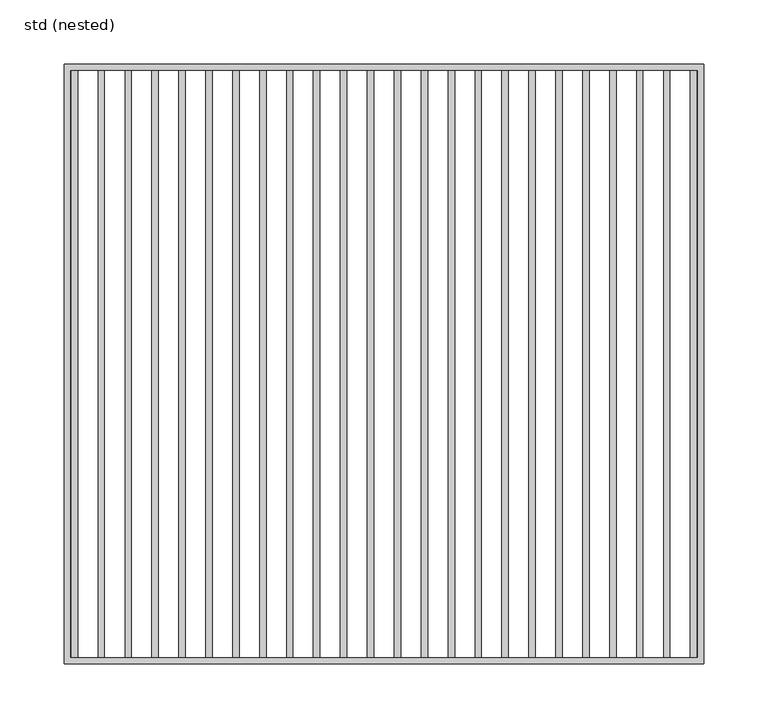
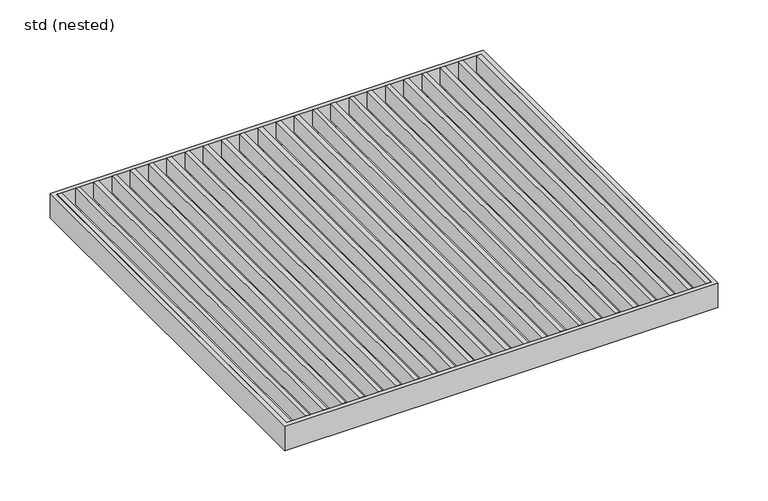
"""IFC4 building model written with IfcOpenShell, lengths in millimetres: sanitary terminal geometry, ZZZ_do not use_PF_ST_UN_grating for box channel_ACO : std (nested)."""

import ifcopenshell
import ifcopenshell.guid

model = None  # the IFC model being written
_history = None  # IfcOwnerHistory: only IFC2X3 demands one
_inside = {}  # id of a spatial element -> (the spatial element, [elements in it])
_under = {}  # id of a project, library or spatial element -> (it, [spatial elements below it])
_declared = {}  # id of a project -> (the project, [libraries it declares])
_typed = {}  # id of a type object -> (the type object, [elements of that type])
_made_of = {}  # id of a material, layer set ... -> (it, [elements and type objects made of it])


def new_model(schema):
    """Start an empty IFC model of exactly this schema.

    Asked for "IFC4X3", IfcOpenShell would pick the latest addendum, in which some entities
    have other attributes; the version numbers below select the first issue.
    IFC2X3 requires an IfcOwnerHistory on every rooted entity: one is made here for all.
    """
    global model, _history
    if schema == "IFC4X3":
        model = ifcopenshell.file(schema_version=(4, 3, 0, 0))
    else:
        model = ifcopenshell.file(schema=schema)
    _inside.clear()
    _under.clear()
    _declared.clear()
    _typed.clear()
    _made_of.clear()
    _history = None
    if model.schema == "IFC2X3":
        org = make("IfcOrganization", Name="unknown")
        user = make(
            "IfcPersonAndOrganization",
            ThePerson=make("IfcPerson", FamilyName="unknown"),
            TheOrganization=org,
        )
        app = make(
            "IfcApplication",
            ApplicationDeveloper=org,
            Version="unknown",
            ApplicationFullName="unknown",
            ApplicationIdentifier="unknown",
        )
        _history = make(
            "IfcOwnerHistory",
            OwningUser=user,
            OwningApplication=app,
            ChangeAction="ADDED",
            CreationDate=0,
        )
    return model


def make(cls, **values):
    """One entity of the class cls with the attributes given. An attribute that is None is left unset."""
    return model.create_entity(
        cls, **{name: value for name, value in values.items() if value is not None}
    )


def rooted(cls, **values):
    """An entity with a GlobalId (a new one), such as an element, a storey or a relation."""
    return make(cls, GlobalId=ifcopenshell.guid.new(), OwnerHistory=_history, **values)


def si_unit(unit_type, name, prefix=None):
    """IfcSIUnit, for example si_unit("LENGTHUNIT", "METRE", prefix="MILLI")."""
    return make("IfcSIUnit", UnitType=unit_type, Prefix=prefix, Name=name)


def assignment(units):
    """IfcUnitAssignment: the units of a project."""
    return None if units is None else make("IfcUnitAssignment", Units=units)


def point(xyz):
    """IfcCartesianPoint."""
    return None if xyz is None else make("IfcCartesianPoint", Coordinates=xyz)


def direction(xyz):
    """IfcDirection."""
    return None if xyz is None else make("IfcDirection", DirectionRatios=xyz)


def frame(location, z_axis=None, x_axis=None):
    """IfcAxis2Placement3D, a coordinate frame: its origin and axes. An axis left out is left unset."""
    return make(
        "IfcAxis2Placement3D",
        Location=point(location),
        Axis=direction(z_axis),
        RefDirection=direction(x_axis),
    )


def origin():
    """The frame at (0, 0, 0) with its axes left unset."""
    return frame((0.0, 0.0, 0.0))


def place(relative_to, where):
    """IfcLocalPlacement: puts the frame where relative to a parent placement (None: the world)."""
    return make(
        "IfcLocalPlacement", PlacementRelTo=relative_to, RelativePlacement=where
    )


def context(
    kind, dimensions, precision=None, world=None, true_north=None, identifier=None
):
    """IfcGeometricRepresentationContext, for example the 3D "Model" context."""
    return make(
        "IfcGeometricRepresentationContext",
        ContextIdentifier=identifier,
        ContextType=kind,
        CoordinateSpaceDimension=dimensions,
        Precision=precision,
        WorldCoordinateSystem=world,
        TrueNorth=true_north,
    )


def project(units=None, contexts=None):
    """IfcProject with its units and contexts."""
    return rooted(
        "IfcProject",
        Name="project",
        RepresentationContexts=contexts,
        UnitsInContext=assignment(units),
    )


def spatial(cls, under=None, at=None, **own):
    """A site, building, storey or space (cls), placed at a placement, below another one or the project."""
    s = rooted(cls, ObjectPlacement=at, **own)
    if under is not None:
        _under.setdefault(under.id(), (under, []))[1].append(s)
    return s


def polyline(points):
    """IfcPolyline through the points."""
    return make("IfcPolyline", Points=[point(p) for p in points])


def outline(outer, holes=None, kind="AREA"):
    """IfcArbitraryClosedProfileDef: a profile drawn as a closed curve; with holes, ...WithVoids."""
    if holes is None:
        return make("IfcArbitraryClosedProfileDef", ProfileType=kind, OuterCurve=outer)
    return make(
        "IfcArbitraryProfileDefWithVoids",
        ProfileType=kind,
        OuterCurve=outer,
        InnerCurves=holes,
    )


def extrude(swept, where, along, depth):
    """IfcExtrudedAreaSolid: the profile swept, set in the frame where, extruded along a direction by depth."""
    return make(
        "IfcExtrudedAreaSolid",
        SweptArea=swept,
        Position=where,
        ExtrudedDirection=direction(along),
        Depth=depth,
    )


def shape(context_of_items, identifier, shape_type, items):
    """IfcShapeRepresentation: the items that make up one representation, for example the "Body"."""
    return make(
        "IfcShapeRepresentation",
        ContextOfItems=context_of_items,
        RepresentationIdentifier=identifier,
        RepresentationType=shape_type,
        Items=items,
    )


def source(mapping_origin, context_of_items, identifier, shape_type, items):
    """IfcRepresentationMap: a shape defined once, which mapped items show again and again."""
    return make(
        "IfcRepresentationMap",
        MappingOrigin=mapping_origin,
        MappedRepresentation=shape(context_of_items, identifier, shape_type, items),
    )


def transform(
    local_origin,
    x_axis=None,
    y_axis=None,
    z_axis=None,
    scale=None,
    scale2=None,
    scale3=None,
    uniform=True,
):
    """IfcCartesianTransformationOperator3D, or its non-uniform kind. x_axis, y_axis, z_axis: its Axis1, 2, 3."""
    if uniform:
        return make(
            "IfcCartesianTransformationOperator3D",
            Axis1=direction(x_axis),
            Axis2=direction(y_axis),
            LocalOrigin=point(local_origin),
            Scale=scale,
            Axis3=direction(z_axis),
        )
    return make(
        "IfcCartesianTransformationOperator3DnonUniform",
        Axis1=direction(x_axis),
        Axis2=direction(y_axis),
        LocalOrigin=point(local_origin),
        Scale=scale,
        Axis3=direction(z_axis),
        Scale2=scale2,
        Scale3=scale3,
    )


def mapped(mapping_source, mapping_target):
    """IfcMappedItem: shows the shape of a source again, moved by a transform."""
    return make(
        "IfcMappedItem", MappingSource=mapping_source, MappingTarget=mapping_target
    )


def made_of(thing, what):
    """Note that an element or type object is made of a material, layer set ...; save() writes the relation."""
    if what is not None:
        _made_of.setdefault(what.id(), (what, []))[1].append(thing)
    return thing


def element(
    cls,
    number,
    at=None,
    inside=None,
    cuts=None,
    type_object=None,
    material=None,
    context=None,
    identifier="Body",
    shape_type=None,
    held_by="IfcProductDefinitionShape",
    body=None,
    shapes=None,
    **own,
):
    """One element of the class cls, such as IfcWall. Its Tag is "e" and its number.

    at: its placement. inside: the storey or other place that contains it. cuts: it is an
    opening in that element (IfcRelVoidsElement). A single representation is given by context,
    identifier, shape_type and body (its items); several are given by shapes. held_by: the class
    of the entity that holds the representations. save() writes the other relations.
    """
    e = rooted(cls, Tag="e%d" % number, ObjectPlacement=at, **own)
    if body is not None:
        shapes = [shape(context, identifier, shape_type, body)]
    if shapes is not None:
        e.Representation = make(held_by, Representations=shapes)
    if inside is not None:
        _inside.setdefault(inside.id(), (inside, []))[1].append(e)
    if cuts is not None:
        rooted(
            "IfcRelVoidsElement", RelatingBuildingElement=cuts, RelatedOpeningElement=e
        )
    if type_object is not None:
        _typed.setdefault(type_object.id(), (type_object, []))[1].append(e)
    return made_of(e, material)


def aggregate(whole, parts):
    """IfcRelAggregates: a whole, such as a stair, and the parts it consists of."""
    return rooted("IfcRelAggregates", RelatingObject=whole, RelatedObjects=parts)


def save(model, path):
    """Write the relations noted so far, then the file.

    IfcRelAggregates (storeys below a building ...), IfcRelContainedInSpatialStructure (elements
    in a storey), IfcRelDefinesByType, IfcRelAssociatesMaterial and IfcRelDeclares: one each for
    every whole, place, type object, material and project.
    """
    for whole, parts in _under.values():
        aggregate(whole, parts)
    for where, things in _inside.values():
        rooted(
            "IfcRelContainedInSpatialStructure",
            RelatedElements=things,
            RelatingStructure=where,
        )
    for kind, things in _typed.values():
        rooted("IfcRelDefinesByType", RelatedObjects=things, RelatingType=kind)
    for what, things in _made_of.values():
        rooted("IfcRelAssociatesMaterial", RelatedObjects=things, RelatingMaterial=what)
    for by, libraries in _declared.values():
        rooted("IfcRelDeclares", RelatingContext=by, RelatedDefinitions=libraries)
    model.write(path)


def std_nested_4be5dc4f(model_context):
    return source(origin(), model_context, "Body", "SweptSolid", [
        extrude(outline(polyline([(-244.0, 229.0), (-239.0, 229.0), (-239.0, -229.0), (-244.0, -229.0), (-244.0, 229.0)])), frame((0.0, 0.0, -20.0), z_axis=(0.0, 0.0, 1.0), x_axis=(1.0, 0.0, 0.0)), (0.0, 0.0, 1.0), 20.0),
        extrude(outline(polyline([(-223.0, 229.0), (-218.0, 229.0), (-218.0, -229.0), (-223.0, -229.0), (-223.0, 229.0)])), frame((0.0, 0.0, -20.0), z_axis=(0.0, 0.0, 1.0), x_axis=(1.0, 0.0, 0.0)), (0.0, 0.0, 1.0), 20.0),
        extrude(outline(polyline([(-202.0, 229.0), (-197.0, 229.0), (-197.0, -229.0), (-202.0, -229.0), (-202.0, 229.0)])), frame((0.0, 0.0, -20.0), z_axis=(0.0, 0.0, 1.0), x_axis=(1.0, 0.0, 0.0)), (0.0, 0.0, 1.0), 20.0),
        extrude(outline(polyline([(-181.0, 229.0), (-176.0, 229.0), (-176.0, -229.0), (-181.0, -229.0), (-181.0, 229.0)])), frame((0.0, 0.0, -20.0), z_axis=(0.0, 0.0, 1.0), x_axis=(1.0, 0.0, 0.0)), (0.0, 0.0, 1.0), 20.0),
        extrude(outline(polyline([(-160.0, 229.0), (-155.0, 229.0), (-155.0, -229.0), (-160.0, -229.0), (-160.0, 229.0)])), frame((0.0, 0.0, -20.0), z_axis=(0.0, 0.0, 1.0), x_axis=(1.0, 0.0, 0.0)), (0.0, 0.0, 1.0), 20.0),
        extrude(outline(polyline([(-139.0, 229.0), (-134.0, 229.0), (-134.0, -229.0), (-139.0, -229.0), (-139.0, 229.0)])), frame((0.0, 0.0, -20.0), z_axis=(0.0, 0.0, 1.0), x_axis=(1.0, 0.0, 0.0)), (0.0, 0.0, 1.0), 20.0),
        extrude(outline(polyline([(-118.0, 229.0), (-113.0, 229.0), (-113.0, -229.0), (-118.0, -229.0), (-118.0, 229.0)])), frame((0.0, 0.0, -20.0), z_axis=(0.0, 0.0, 1.0), x_axis=(1.0, 0.0, 0.0)), (0.0, 0.0, 1.0), 20.0),
        extrude(outline(polyline([(-97.0, 229.0), (-92.0, 229.0), (-92.0, -229.0), (-97.0, -229.0), (-97.0, 229.0)])), frame((0.0, 0.0, -20.0), z_axis=(0.0, 0.0, 1.0), x_axis=(1.0, 0.0, 0.0)), (0.0, 0.0, 1.0), 20.0),
        extrude(outline(polyline([(-76.0, 229.0), (-71.0, 229.0), (-71.0, -229.0), (-76.0, -229.0), (-76.0, 229.0)])), frame((0.0, 0.0, -20.0), z_axis=(0.0, 0.0, 1.0), x_axis=(1.0, 0.0, 0.0)), (0.0, 0.0, 1.0), 20.0),
        extrude(outline(polyline([(-55.0, 229.0), (-50.0, 229.0), (-50.0, -229.0), (-55.0, -229.0), (-55.0, 229.0)])), frame((0.0, 0.0, -20.0), z_axis=(0.0, 0.0, 1.0), x_axis=(1.0, 0.0, 0.0)), (0.0, 0.0, 1.0), 20.0),
        extrude(outline(polyline([(-34.0, 229.0), (-29.0, 229.0), (-29.0, -229.0), (-34.0, -229.0), (-34.0, 229.0)])), frame((0.0, 0.0, -20.0), z_axis=(0.0, 0.0, 1.0), x_axis=(1.0, 0.0, 0.0)), (0.0, 0.0, 1.0), 20.0),
        extrude(outline(polyline([(244.0, 229.0), (244.0, -229.0), (239.0, -229.0), (239.0, 229.0), (244.0, 229.0)])), frame((0.0, 0.0, -20.0), z_axis=(0.0, 0.0, 1.0), x_axis=(1.0, 0.0, 0.0)), (0.0, 0.0, 1.0), 20.0),
        extrude(outline(polyline([(223.0, 229.0), (223.0, -229.0), (218.0, -229.0), (218.0, 229.0), (223.0, 229.0)])), frame((0.0, 0.0, -20.0), z_axis=(0.0, 0.0, 1.0), x_axis=(1.0, 0.0, 0.0)), (0.0, 0.0, 1.0), 20.0),
        extrude(outline(polyline([(202.0, 229.0), (202.0, -229.0), (197.0, -229.0), (197.0, 229.0), (202.0, 229.0)])), frame((0.0, 0.0, -20.0), z_axis=(0.0, 0.0, 1.0), x_axis=(1.0, 0.0, 0.0)), (0.0, 0.0, 1.0), 20.0),
        extrude(outline(polyline([(181.0, 229.0), (181.0, -229.0), (176.0, -229.0), (176.0, 229.0), (181.0, 229.0)])), frame((0.0, 0.0, -20.0), z_axis=(0.0, 0.0, 1.0), x_axis=(1.0, 0.0, 0.0)), (0.0, 0.0, 1.0), 20.0),
        extrude(outline(polyline([(160.0, 229.0), (160.0, -229.0), (155.0, -229.0), (155.0, 229.0), (160.0, 229.0)])), frame((0.0, 0.0, -20.0), z_axis=(0.0, 0.0, 1.0), x_axis=(1.0, 0.0, 0.0)), (0.0, 0.0, 1.0), 20.0),
        extrude(outline(polyline([(139.0, 229.0), (139.0, -229.0), (134.0, -229.0), (134.0, 229.0), (139.0, 229.0)])), frame((0.0, 0.0, -20.0), z_axis=(0.0, 0.0, 1.0), x_axis=(1.0, 0.0, 0.0)), (0.0, 0.0, 1.0), 20.0),
        extrude(outline(polyline([(118.0, 229.0), (118.0, -229.0), (113.0, -229.0), (113.0, 229.0), (118.0, 229.0)])), frame((0.0, 0.0, -20.0), z_axis=(0.0, 0.0, 1.0), x_axis=(1.0, 0.0, 0.0)), (0.0, 0.0, 1.0), 20.0),
        extrude(outline(polyline([(97.0, 229.0), (97.0, -229.0), (92.0, -229.0), (92.0, 229.0), (97.0, 229.0)])), frame((0.0, 0.0, -20.0), z_axis=(0.0, 0.0, 1.0), x_axis=(1.0, 0.0, 0.0)), (0.0, 0.0, 1.0), 20.0),
        extrude(outline(polyline([(76.0, 229.0), (76.0, -229.0), (71.0, -229.0), (71.0, 229.0), (76.0, 229.0)])), frame((0.0, 0.0, -20.0), z_axis=(0.0, 0.0, 1.0), x_axis=(1.0, 0.0, 0.0)), (0.0, 0.0, 1.0), 20.0),
        extrude(outline(polyline([(55.0, 229.0), (55.0, -229.0), (50.0, -229.0), (50.0, 229.0), (55.0, 229.0)])), frame((0.0, 0.0, -20.0), z_axis=(0.0, 0.0, 1.0), x_axis=(1.0, 0.0, 0.0)), (0.0, 0.0, 1.0), 20.0),
        extrude(outline(polyline([(34.0, 229.0), (34.0, -229.0), (29.0, -229.0), (29.0, 229.0), (34.0, 229.0)])), frame((0.0, 0.0, -20.0), z_axis=(0.0, 0.0, 1.0), x_axis=(1.0, 0.0, 0.0)), (0.0, 0.0, 1.0), 20.0),
        extrude(outline(polyline([(-13.0, 229.0), (-8.0, 229.0), (-8.0, -229.0), (-13.0, -229.0), (-13.0, 229.0)])), frame((0.0, 0.0, -20.0), z_axis=(0.0, 0.0, 1.0), x_axis=(1.0, 0.0, 0.0)), (0.0, 0.0, 1.0), 20.0),
        extrude(outline(polyline([(13.0, 229.0), (13.0, -229.0), (8.0, -229.0), (8.0, 229.0), (13.0, 229.0)])), frame((0.0, 0.0, -20.0), z_axis=(0.0, 0.0, 1.0), x_axis=(1.0, 0.0, 0.0)), (0.0, 0.0, 1.0), 20.0),
        extrude(outline(polyline([(249.5, 234.0), (249.5, -234.0), (-249.5, -234.0), (-249.5, 234.0), (249.5, 234.0)]), holes=[polyline([(244.5, 229.0), (-244.5, 229.0), (-244.5, -229.0), (244.5, -229.0), (244.5, 229.0)])]), frame((0.0, 0.0, -30.0), z_axis=(0.0, 0.0, 1.0), x_axis=(1.0, 0.0, 0.0)), (0.0, 0.0, 1.0), 30.0),
    ])


if __name__ == "__main__":
    model = new_model("IFC4")
    model_context = context("Model", 3, world=origin())
    ifc_project = project(units=[si_unit("LENGTHUNIT", "METRE", prefix="MILLI")], contexts=[model_context])
    site = spatial("IfcSite", under=ifc_project)
    building = spatial("IfcBuilding", under=site)
    placement = place(None, origin())
    std_nested_shape = std_nested_4be5dc4f(model_context)
    element("IfcSanitaryTerminal", 1, ObjectType="ZZZ_do not use_PF_ST_UN_grating for box channel_ACO : std (nested)", at=placement, inside=building, context=model_context, shape_type="MappedRepresentation", body=[
        mapped(std_nested_shape, transform((0.0, 0.0, 0.0), x_axis=(1.0, 0.0, 0.0), y_axis=(0.0, 1.0, 0.0), z_axis=(0.0, 0.0, 1.0))),
    ])
    save(model, "model.ifc")
